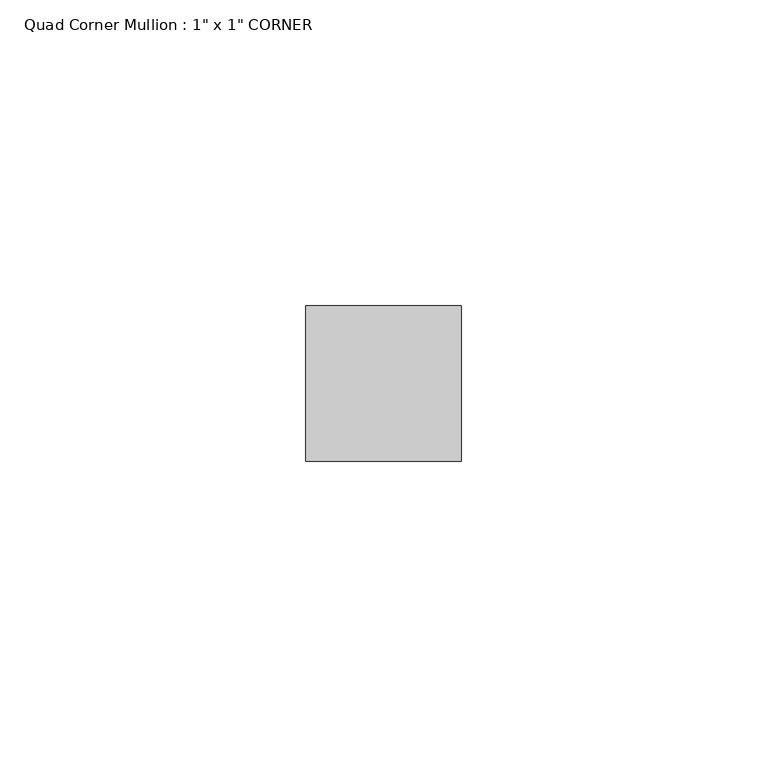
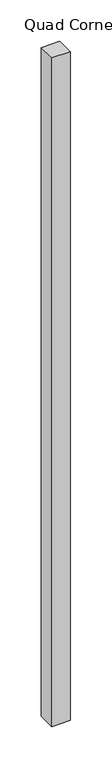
"""IFC4 building model written with IfcOpenShell, lengths in millimetres: member geometry."""

import ifcopenshell
import ifcopenshell.guid

model = None  # the IFC model being written
_history = None  # IfcOwnerHistory: only IFC2X3 demands one
_inside = {}  # id of a spatial element -> (the spatial element, [elements in it])
_under = {}  # id of a project, library or spatial element -> (it, [spatial elements below it])
_declared = {}  # id of a project -> (the project, [libraries it declares])
_typed = {}  # id of a type object -> (the type object, [elements of that type])
_made_of = {}  # id of a material, layer set ... -> (it, [elements and type objects made of it])


def new_model(schema):
    """Start an empty IFC model of exactly this schema.

    Asked for "IFC4X3", IfcOpenShell would pick the latest addendum, in which some entities
    have other attributes; the version numbers below select the first issue.
    IFC2X3 requires an IfcOwnerHistory on every rooted entity: one is made here for all.
    """
    global model, _history
    if schema == "IFC4X3":
        model = ifcopenshell.file(schema_version=(4, 3, 0, 0))
    else:
        model = ifcopenshell.file(schema=schema)
    _inside.clear()
    _under.clear()
    _declared.clear()
    _typed.clear()
    _made_of.clear()
    _history = None
    if model.schema == "IFC2X3":
        org = make("IfcOrganization", Name="unknown")
        user = make(
            "IfcPersonAndOrganization",
            ThePerson=make("IfcPerson", FamilyName="unknown"),
            TheOrganization=org,
        )
        app = make(
            "IfcApplication",
            ApplicationDeveloper=org,
            Version="unknown",
            ApplicationFullName="unknown",
            ApplicationIdentifier="unknown",
        )
        _history = make(
            "IfcOwnerHistory",
            OwningUser=user,
            OwningApplication=app,
            ChangeAction="ADDED",
            CreationDate=0,
        )
    return model


def make(cls, **values):
    """One entity of the class cls with the attributes given. An attribute that is None is left unset."""
    return model.create_entity(
        cls, **{name: value for name, value in values.items() if value is not None}
    )


def rooted(cls, **values):
    """An entity with a GlobalId (a new one), such as an element, a storey or a relation."""
    return make(cls, GlobalId=ifcopenshell.guid.new(), OwnerHistory=_history, **values)


def si_unit(unit_type, name, prefix=None):
    """IfcSIUnit, for example si_unit("LENGTHUNIT", "METRE", prefix="MILLI")."""
    return make("IfcSIUnit", UnitType=unit_type, Prefix=prefix, Name=name)


def assignment(units):
    """IfcUnitAssignment: the units of a project."""
    return None if units is None else make("IfcUnitAssignment", Units=units)


def point(xyz):
    """IfcCartesianPoint."""
    return None if xyz is None else make("IfcCartesianPoint", Coordinates=xyz)


def direction(xyz):
    """IfcDirection."""
    return None if xyz is None else make("IfcDirection", DirectionRatios=xyz)


def frame(location, z_axis=None, x_axis=None):
    """IfcAxis2Placement3D, a coordinate frame: its origin and axes. An axis left out is left unset."""
    return make(
        "IfcAxis2Placement3D",
        Location=point(location),
        Axis=direction(z_axis),
        RefDirection=direction(x_axis),
    )


def origin():
    """The frame at (0, 0, 0) with its axes left unset."""
    return frame((0.0, 0.0, 0.0))


def place(relative_to, where):
    """IfcLocalPlacement: puts the frame where relative to a parent placement (None: the world)."""
    return make(
        "IfcLocalPlacement", PlacementRelTo=relative_to, RelativePlacement=where
    )


def context(
    kind, dimensions, precision=None, world=None, true_north=None, identifier=None
):
    """IfcGeometricRepresentationContext, for example the 3D "Model" context."""
    return make(
        "IfcGeometricRepresentationContext",
        ContextIdentifier=identifier,
        ContextType=kind,
        CoordinateSpaceDimension=dimensions,
        Precision=precision,
        WorldCoordinateSystem=world,
        TrueNorth=true_north,
    )


def project(units=None, contexts=None):
    """IfcProject with its units and contexts."""
    return rooted(
        "IfcProject",
        Name="project",
        RepresentationContexts=contexts,
        UnitsInContext=assignment(units),
    )


def spatial(cls, under=None, at=None, **own):
    """A site, building, storey or space (cls), placed at a placement, below another one or the project."""
    s = rooted(cls, ObjectPlacement=at, **own)
    if under is not None:
        _under.setdefault(under.id(), (under, []))[1].append(s)
    return s


def polyline(points):
    """IfcPolyline through the points."""
    return make("IfcPolyline", Points=[point(p) for p in points])


def outline(outer, holes=None, kind="AREA"):
    """IfcArbitraryClosedProfileDef: a profile drawn as a closed curve; with holes, ...WithVoids."""
    if holes is None:
        return make("IfcArbitraryClosedProfileDef", ProfileType=kind, OuterCurve=outer)
    return make(
        "IfcArbitraryProfileDefWithVoids",
        ProfileType=kind,
        OuterCurve=outer,
        InnerCurves=holes,
    )


def extrude(swept, where, along, depth):
    """IfcExtrudedAreaSolid: the profile swept, set in the frame where, extruded along a direction by depth."""
    return make(
        "IfcExtrudedAreaSolid",
        SweptArea=swept,
        Position=where,
        ExtrudedDirection=direction(along),
        Depth=depth,
    )


def shape(context_of_items, identifier, shape_type, items):
    """IfcShapeRepresentation: the items that make up one representation, for example the "Body"."""
    return make(
        "IfcShapeRepresentation",
        ContextOfItems=context_of_items,
        RepresentationIdentifier=identifier,
        RepresentationType=shape_type,
        Items=items,
    )


def source(mapping_origin, context_of_items, identifier, shape_type, items):
    """IfcRepresentationMap: a shape defined once, which mapped items show again and again."""
    return make(
        "IfcRepresentationMap",
        MappingOrigin=mapping_origin,
        MappedRepresentation=shape(context_of_items, identifier, shape_type, items),
    )


def transform(
    local_origin,
    x_axis=None,
    y_axis=None,
    z_axis=None,
    scale=None,
    scale2=None,
    scale3=None,
    uniform=True,
):
    """IfcCartesianTransformationOperator3D, or its non-uniform kind. x_axis, y_axis, z_axis: its Axis1, 2, 3."""
    if uniform:
        return make(
            "IfcCartesianTransformationOperator3D",
            Axis1=direction(x_axis),
            Axis2=direction(y_axis),
            LocalOrigin=point(local_origin),
            Scale=scale,
            Axis3=direction(z_axis),
        )
    return make(
        "IfcCartesianTransformationOperator3DnonUniform",
        Axis1=direction(x_axis),
        Axis2=direction(y_axis),
        LocalOrigin=point(local_origin),
        Scale=scale,
        Axis3=direction(z_axis),
        Scale2=scale2,
        Scale3=scale3,
    )


def mapped(mapping_source, mapping_target):
    """IfcMappedItem: shows the shape of a source again, moved by a transform."""
    return make(
        "IfcMappedItem", MappingSource=mapping_source, MappingTarget=mapping_target
    )


def made_of(thing, what):
    """Note that an element or type object is made of a material, layer set ...; save() writes the relation."""
    if what is not None:
        _made_of.setdefault(what.id(), (what, []))[1].append(thing)
    return thing


def element(
    cls,
    number,
    at=None,
    inside=None,
    cuts=None,
    type_object=None,
    material=None,
    context=None,
    identifier="Body",
    shape_type=None,
    held_by="IfcProductDefinitionShape",
    body=None,
    shapes=None,
    **own,
):
    """One element of the class cls, such as IfcWall. Its Tag is "e" and its number.

    at: its placement. inside: the storey or other place that contains it. cuts: it is an
    opening in that element (IfcRelVoidsElement). A single representation is given by context,
    identifier, shape_type and body (its items); several are given by shapes. held_by: the class
    of the entity that holds the representations. save() writes the other relations.
    """
    e = rooted(cls, Tag="e%d" % number, ObjectPlacement=at, **own)
    if body is not None:
        shapes = [shape(context, identifier, shape_type, body)]
    if shapes is not None:
        e.Representation = make(held_by, Representations=shapes)
    if inside is not None:
        _inside.setdefault(inside.id(), (inside, []))[1].append(e)
    if cuts is not None:
        rooted(
            "IfcRelVoidsElement", RelatingBuildingElement=cuts, RelatedOpeningElement=e
        )
    if type_object is not None:
        _typed.setdefault(type_object.id(), (type_object, []))[1].append(e)
    return made_of(e, material)


def aggregate(whole, parts):
    """IfcRelAggregates: a whole, such as a stair, and the parts it consists of."""
    return rooted("IfcRelAggregates", RelatingObject=whole, RelatedObjects=parts)


def save(model, path):
    """Write the relations noted so far, then the file.

    IfcRelAggregates (storeys below a building ...), IfcRelContainedInSpatialStructure (elements
    in a storey), IfcRelDefinesByType, IfcRelAssociatesMaterial and IfcRelDeclares: one each for
    every whole, place, type object, material and project.
    """
    for whole, parts in _under.values():
        aggregate(whole, parts)
    for where, things in _inside.values():
        rooted(
            "IfcRelContainedInSpatialStructure",
            RelatedElements=things,
            RelatingStructure=where,
        )
    for kind, things in _typed.values():
        rooted("IfcRelDefinesByType", RelatedObjects=things, RelatingType=kind)
    for what, things in _made_of.values():
        rooted("IfcRelAssociatesMaterial", RelatedObjects=things, RelatingMaterial=what)
    for by, libraries in _declared.values():
        rooted("IfcRelDeclares", RelatingContext=by, RelatedDefinitions=libraries)
    model.write(path)


def member_273d84c8(model_context):
    return source(origin(), model_context, "Body", "SweptSolid", [
        extrude(outline(polyline([(0.0, 25.4), (0.0, 0.0), (-25.4, 0.0), (-25.4, 25.4), (0.0, 25.4)])), frame((0.0, 0.0, -984.25), z_axis=(0.0, 0.0, 1.0), x_axis=(1.0, 0.0, 0.0)), (0.0, 0.0, 1.0), 984.25),
    ])


if __name__ == "__main__":
    model = new_model("IFC4")
    model_context = context("Model", 3, world=origin())
    ifc_project = project(units=[si_unit("LENGTHUNIT", "METRE", prefix="MILLI")], contexts=[model_context])
    site = spatial("IfcSite", under=ifc_project)
    building = spatial("IfcBuilding", under=site)
    placement = place(None, origin())
    member_shape = member_273d84c8(model_context)
    element("IfcMember", 1, ObjectType="Quad Corner Mullion : 1\" x 1\" CORNER", at=placement, inside=building, context=model_context, shape_type="MappedRepresentation", body=[
        mapped(member_shape, transform((0.0, 0.0, 0.0), x_axis=(1.0, 0.0, 0.0), y_axis=(0.0, 1.0, 0.0), z_axis=(0.0, 0.0, 1.0))),
    ])
    save(model, "model.ifc")
